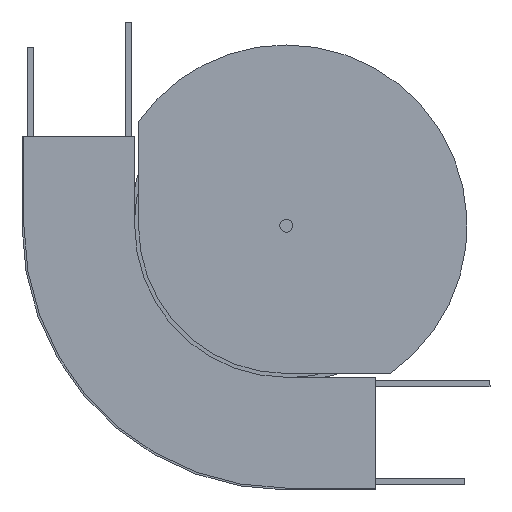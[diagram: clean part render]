
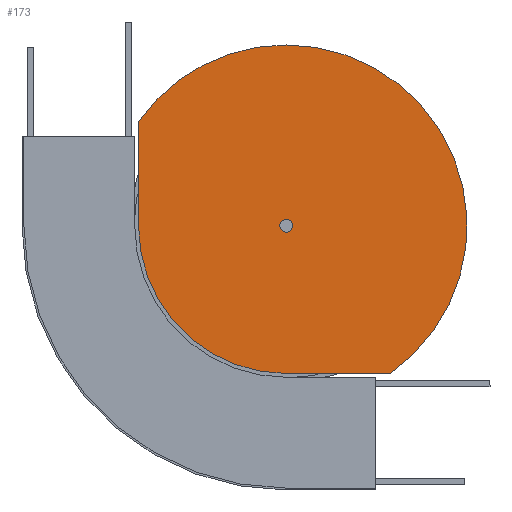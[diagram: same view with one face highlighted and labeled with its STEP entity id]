
A CAD part, front view. The second image highlights one B-rep face of the part: STEP entity #173.
In plain terms, the highlighted planar face has unit normal (0, -1, 0).
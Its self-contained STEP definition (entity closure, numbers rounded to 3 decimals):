
#173 = ADVANCED_FACE ( 'NONE', ( #4943, #4912 ), #815, .F. ) ;
#812 = DIRECTION ( 'NONE',  ( 0., 1., 0. ) ) ;
#813 = CARTESIAN_POINT ( 'NONE',  ( 46.5, -38.75, -70. ) ) ;
#815 = PLANE ( 'NONE',  #1718 ) ;
#817 = DIRECTION ( 'NONE',  ( 0., 0., -1. ) ) ;
#1311 = CIRCLE ( 'NONE', #2859, 5. ) ;
#1320 = CIRCLE ( 'NONE', #2856, 142. ) ;
#1718 = AXIS2_PLACEMENT_3D ( 'NONE', #813, #812, #817 ) ;
#1799 = EDGE_CURVE ( 'NONE', #5238, #5242, #4414, .T. ) ;
#1802 = EDGE_CURVE ( 'NONE', #4134, #4135, #4403, .T. ) ;
#1804 = EDGE_CURVE ( 'NONE', #5253, #5242, #4400, .T. ) ;
#1805 = EDGE_CURVE ( 'NONE', #4142, #5253, #4401, .T. ) ;
#1813 = EDGE_CURVE ( 'NONE', #5238, #4145, #4385, .T. ) ;
#2638 = EDGE_LOOP ( 'NONE', ( #2737, #2736, #2735, #2734, #2733 ) ) ;
#2642 = EDGE_LOOP ( 'NONE', ( #2739, #2738 ) ) ;
#2733 = ORIENTED_EDGE ( 'NONE', *, *, #1813, .F. ) ;
#2734 = ORIENTED_EDGE ( 'NONE', *, *, #5453, .F. ) ;
#2735 = ORIENTED_EDGE ( 'NONE', *, *, #1805, .F. ) ;
#2736 = ORIENTED_EDGE ( 'NONE', *, *, #1804, .F. ) ;
#2737 = ORIENTED_EDGE ( 'NONE', *, *, #1799, .T. ) ;
#2738 = ORIENTED_EDGE ( 'NONE', *, *, #5459, .F. ) ;
#2739 = ORIENTED_EDGE ( 'NONE', *, *, #1802, .F. ) ;
#2821 = AXIS2_PLACEMENT_3D ( 'NONE', #3186, #3187, #3188 ) ;
#2822 = AXIS2_PLACEMENT_3D ( 'NONE', #3192, #3193, #3194 ) ;
#2824 = AXIS2_PLACEMENT_3D ( 'NONE', #3202, #3203, #3204 ) ;
#2856 = AXIS2_PLACEMENT_3D ( 'NONE', #3720, #3721, #3722 ) ;
#2859 = AXIS2_PLACEMENT_3D ( 'NONE', #3736, #3737, #3738 ) ;
#3186 = CARTESIAN_POINT ( 'NONE',  ( 162.5, -38.75, -70. ) ) ;
#3187 = DIRECTION ( 'NONE',  ( 0., -1., 0. ) ) ;
#3188 = DIRECTION ( 'NONE',  ( 0., 0., -1. ) ) ;
#3190 = DIRECTION ( 'NONE',  ( -1., 0., 0. ) ) ;
#3191 = CARTESIAN_POINT ( 'NONE',  ( 162.5, -38.75, -186. ) ) ;
#3192 = CARTESIAN_POINT ( 'NONE',  ( 162.5, -38.75, -70. ) ) ;
#3193 = DIRECTION ( 'NONE',  ( 0., -1., 0. ) ) ;
#3194 = DIRECTION ( 'NONE',  ( 0., 0., 1. ) ) ;
#3202 = CARTESIAN_POINT ( 'NONE',  ( 162.5, -38.75, -70. ) ) ;
#3203 = DIRECTION ( 'NONE',  ( 0., 1., 0. ) ) ;
#3204 = DIRECTION ( 'NONE',  ( 0., 0., 1. ) ) ;
#3209 = CARTESIAN_POINT ( 'NONE',  ( 46.5, -38.75, -70. ) ) ;
#3210 = DIRECTION ( 'NONE',  ( 0., 0., 1. ) ) ;
#3390 = CARTESIAN_POINT ( 'NONE',  ( 162.5, -38.75, -65. ) ) ;
#3391 = CARTESIAN_POINT ( 'NONE',  ( 162.5, -38.75, -75. ) ) ;
#3398 = CARTESIAN_POINT ( 'NONE',  ( 162.5, -38.75, 72. ) ) ;
#3401 = CARTESIAN_POINT ( 'NONE',  ( 46.5, -38.75, 11.902 ) ) ;
#3425 = CARTESIAN_POINT ( 'NONE',  ( 46.5, -38.75, -70. ) ) ;
#3428 = CARTESIAN_POINT ( 'NONE',  ( 162.5, -38.75, -186. ) ) ;
#3437 = CARTESIAN_POINT ( 'NONE',  ( 244.402, -38.75, -186. ) ) ;
#3720 = CARTESIAN_POINT ( 'NONE',  ( 162.5, -38.75, -70. ) ) ;
#3721 = DIRECTION ( 'NONE',  ( 0., 1., 0. ) ) ;
#3722 = DIRECTION ( 'NONE',  ( 0., 0., 1. ) ) ;
#3736 = CARTESIAN_POINT ( 'NONE',  ( 162.5, -38.75, -70. ) ) ;
#3737 = DIRECTION ( 'NONE',  ( 0., -1., 0. ) ) ;
#3738 = DIRECTION ( 'NONE',  ( 0., 0., 1. ) ) ;
#4134 = VERTEX_POINT ( 'NONE', #3390 ) ;
#4135 = VERTEX_POINT ( 'NONE', #3391 ) ;
#4142 = VERTEX_POINT ( 'NONE', #3398 ) ;
#4145 = VERTEX_POINT ( 'NONE', #3401 ) ;
#4383 = VECTOR ( 'NONE', #3210, 1000. ) ;
#4385 = LINE ( 'NONE', #3209, #4383 ) ;
#4398 = VECTOR ( 'NONE', #3190, 1000. ) ;
#4400 = LINE ( 'NONE', #3191, #4398 ) ;
#4401 = CIRCLE ( 'NONE', #2824, 142. ) ;
#4403 = CIRCLE ( 'NONE', #2822, 5. ) ;
#4414 = CIRCLE ( 'NONE', #2821, 116. ) ;
#4912 = FACE_OUTER_BOUND ( 'NONE', #2638, .T. ) ;
#4943 = FACE_BOUND ( 'NONE', #2642, .T. ) ;
#5238 = VERTEX_POINT ( 'NONE', #3425 ) ;
#5242 = VERTEX_POINT ( 'NONE', #3428 ) ;
#5253 = VERTEX_POINT ( 'NONE', #3437 ) ;
#5453 = EDGE_CURVE ( 'NONE', #4145, #4142, #1320, .T. ) ;
#5459 = EDGE_CURVE ( 'NONE', #4135, #4134, #1311, .T. ) ;
